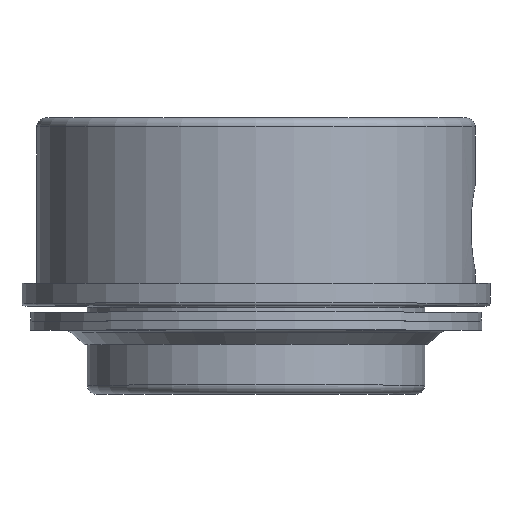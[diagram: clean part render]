
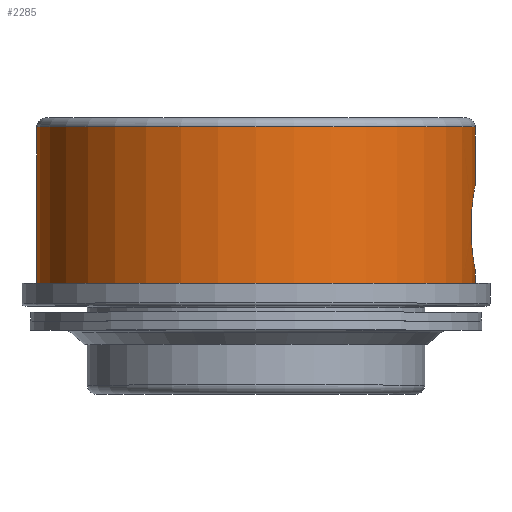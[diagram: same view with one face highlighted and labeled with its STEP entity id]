
A CAD part, top view. The second image highlights one B-rep face of the part: STEP entity #2285.
In plain terms, the highlighted cylindrical face has radius 6.185 mm (diameter 12.37 mm), a partial arc.
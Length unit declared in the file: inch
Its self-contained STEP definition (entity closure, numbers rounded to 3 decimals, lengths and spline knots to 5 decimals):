
#5 = ORIENTED_EDGE ( 'NONE', *, *, #2880, .T. ) ;
#8 = CARTESIAN_POINT ( 'NONE',  ( 0.23897, 0.362, 0.04675 ) ) ;
#18 = VERTEX_POINT ( 'NONE', #2294 ) ;
#169 = VECTOR ( 'NONE', #3945, 39.37008 ) ;
#229 = CARTESIAN_POINT ( 'NONE',  ( 0.24065, 0.3333, 0.03741 ) ) ;
#323 = DIRECTION ( 'NONE',  ( 0., 1., 0. ) ) ;
#411 = ORIENTED_EDGE ( 'NONE', *, *, #5449, .T. ) ;
#432 = VERTEX_POINT ( 'NONE', #793 ) ;
#456 = ORIENTED_EDGE ( 'NONE', *, *, #1417, .T. ) ;
#674 = CARTESIAN_POINT ( 'NONE',  ( 0.24326, 0.40753, 0.01226 ) ) ;
#718 = CARTESIAN_POINT ( 'NONE',  ( 0.23922, 0.34975, 0.04553 ) ) ;
#789 = CARTESIAN_POINT ( 'NONE',  ( 0.2435, 0.474, 0. ) ) ;
#793 = CARTESIAN_POINT ( 'NONE',  ( -0.2435, 0.474, 0. ) ) ;
#1028 = DIRECTION ( 'NONE',  ( 0., -1., 0. ) ) ;
#1079 = VERTEX_POINT ( 'NONE', #3840 ) ;
#1133 = CARTESIAN_POINT ( 'NONE',  ( 0.23897, 0.35589, 0.04675 ) ) ;
#1417 = EDGE_CURVE ( 'NONE', #1768, #432, #2769, .T. ) ;
#1422 = CARTESIAN_POINT ( 'NONE',  ( 0.2435, 0.40875, 0.00618 ) ) ;
#1484 = CARTESIAN_POINT ( 'NONE',  ( 0., 0.474, 0. ) ) ;
#1564 = DIRECTION ( 'NONE',  ( 0., 1., 0. ) ) ;
#1646 = ORIENTED_EDGE ( 'NONE', *, *, #2272, .T. ) ;
#1648 = CARTESIAN_POINT ( 'NONE',  ( 0.2435, 0.484, 0. ) ) ;
#1768 = VERTEX_POINT ( 'NONE', #789 ) ;
#1872 = AXIS2_PLACEMENT_3D ( 'NONE', #5254, #5673, #2988 ) ;
#2131 = CARTESIAN_POINT ( 'NONE',  ( 0., 0.3, 0. ) ) ;
#2272 = EDGE_CURVE ( 'NONE', #4364, #5299, #3231, .T. ) ;
#2285 = ADVANCED_FACE ( 'NONE', ( #2508 ), #3428, .T. ) ;
#2294 = CARTESIAN_POINT ( 'NONE',  ( 0.2435, 0.40875, 0. ) ) ;
#2502 = B_SPLINE_CURVE_WITH_KNOTS ( 'NONE', 3,
 ( #4728, #4605, #3738, #4636, #5121, #5095, #5558, #674, #1422, #3680 ),
 .UNSPECIFIED., .F., .F.,
 ( 4, 2, 2, 2, 4 ),
 ( 0.00372, 0.00419, 0.00465, 0.00512, 0.00558 ),
 .UNSPECIFIED. ) ;
#2508 = FACE_OUTER_BOUND ( 'NONE', #4576, .T. ) ;
#2691 = CARTESIAN_POINT ( 'NONE',  ( 0.2435, 0.484, 0. ) ) ;
#2769 = CIRCLE ( 'NONE', #4094, 0.2435 ) ;
#2880 = EDGE_CURVE ( 'NONE', #18, #1768, #4974, .T. ) ;
#2902 = CARTESIAN_POINT ( 'NONE',  ( 0.24184, 0.3246, 0.02872 ) ) ;
#2936 = CARTESIAN_POINT ( 'NONE',  ( 0.23897, 0.362, 0.04675 ) ) ;
#2958 = CARTESIAN_POINT ( 'NONE',  ( 0.24326, 0.31647, 0.01224 ) ) ;
#2988 = DIRECTION ( 'NONE',  ( -1., 0., 0. ) ) ;
#3048 = LINE ( 'NONE', #4883, #4994 ) ;
#3231 = B_SPLINE_CURVE_WITH_KNOTS ( 'NONE', 3,
 ( #3403, #4238, #2958, #4687, #2902, #229, #5610, #718, #1133, #2936 ),
 .UNSPECIFIED., .F., .F.,
 ( 4, 2, 2, 2, 4 ),
 ( 0.00186, 0.00233, 0.00279, 0.00326, 0.00372 ),
 .UNSPECIFIED. ) ;
#3403 = CARTESIAN_POINT ( 'NONE',  ( 0.2435, 0.31525, 0. ) ) ;
#3428 = CYLINDRICAL_SURFACE ( 'NONE', #1872, 0.2435 ) ;
#3680 = CARTESIAN_POINT ( 'NONE',  ( 0.2435, 0.40875, 0. ) ) ;
#3738 = CARTESIAN_POINT ( 'NONE',  ( 0.23922, 0.37428, 0.04552 ) ) ;
#3828 = LINE ( 'NONE', #1648, #169 ) ;
#3840 = CARTESIAN_POINT ( 'NONE',  ( 0.2435, 0.3, 0. ) ) ;
#3945 = DIRECTION ( 'NONE',  ( 0., 1., 0. ) ) ;
#3992 = ORIENTED_EDGE ( 'NONE', *, *, #5477, .F. ) ;
#4094 = AXIS2_PLACEMENT_3D ( 'NONE', #1484, #1028, #5129 ) ;
#4209 = CIRCLE ( 'NONE', #5853, 0.2435 ) ;
#4238 = CARTESIAN_POINT ( 'NONE',  ( 0.2435, 0.31525, 0.00611 ) ) ;
#4273 = EDGE_CURVE ( 'NONE', #5299, #18, #2502, .T. ) ;
#4364 = VERTEX_POINT ( 'NONE', #4694 ) ;
#4461 = ORIENTED_EDGE ( 'NONE', *, *, #4273, .T. ) ;
#4515 = DIRECTION ( 'NONE',  ( 0., 1., 0. ) ) ;
#4525 = VERTEX_POINT ( 'NONE', #5774 ) ;
#4576 = EDGE_LOOP ( 'NONE', ( #5557, #411, #1646, #4461, #5, #456, #3992 ) ) ;
#4605 = CARTESIAN_POINT ( 'NONE',  ( 0.23897, 0.36811, 0.04675 ) ) ;
#4636 = CARTESIAN_POINT ( 'NONE',  ( 0.24006, 0.38553, 0.04085 ) ) ;
#4687 = CARTESIAN_POINT ( 'NONE',  ( 0.24242, 0.32117, 0.02358 ) ) ;
#4694 = CARTESIAN_POINT ( 'NONE',  ( 0.2435, 0.31525, 0. ) ) ;
#4728 = CARTESIAN_POINT ( 'NONE',  ( 0.23897, 0.362, 0.04675 ) ) ;
#4883 = CARTESIAN_POINT ( 'NONE',  ( -0.2435, 0.484, 0. ) ) ;
#4974 = LINE ( 'NONE', #2691, #5402 ) ;
#4994 = VECTOR ( 'NONE', #1564, 39.37008 ) ;
#5095 = CARTESIAN_POINT ( 'NONE',  ( 0.24183, 0.39936, 0.02876 ) ) ;
#5121 = CARTESIAN_POINT ( 'NONE',  ( 0.24065, 0.39073, 0.03738 ) ) ;
#5129 = DIRECTION ( 'NONE',  ( 1., 0., 0. ) ) ;
#5215 = DIRECTION ( 'NONE',  ( -1., 0., 0. ) ) ;
#5254 = CARTESIAN_POINT ( 'NONE',  ( 0., 0.484, 0. ) ) ;
#5299 = VERTEX_POINT ( 'NONE', #8 ) ;
#5402 = VECTOR ( 'NONE', #4515, 39.37008 ) ;
#5443 = EDGE_CURVE ( 'NONE', #4525, #1079, #4209, .T. ) ;
#5449 = EDGE_CURVE ( 'NONE', #1079, #4364, #3828, .T. ) ;
#5477 = EDGE_CURVE ( 'NONE', #4525, #432, #3048, .T. ) ;
#5557 = ORIENTED_EDGE ( 'NONE', *, *, #5443, .T. ) ;
#5558 = CARTESIAN_POINT ( 'NONE',  ( 0.24242, 0.40282, 0.0236 ) ) ;
#5610 = CARTESIAN_POINT ( 'NONE',  ( 0.24006, 0.33845, 0.04084 ) ) ;
#5673 = DIRECTION ( 'NONE',  ( 0., 1., 0. ) ) ;
#5774 = CARTESIAN_POINT ( 'NONE',  ( -0.2435, 0.3, 0. ) ) ;
#5853 = AXIS2_PLACEMENT_3D ( 'NONE', #2131, #323, #5215 ) ;
